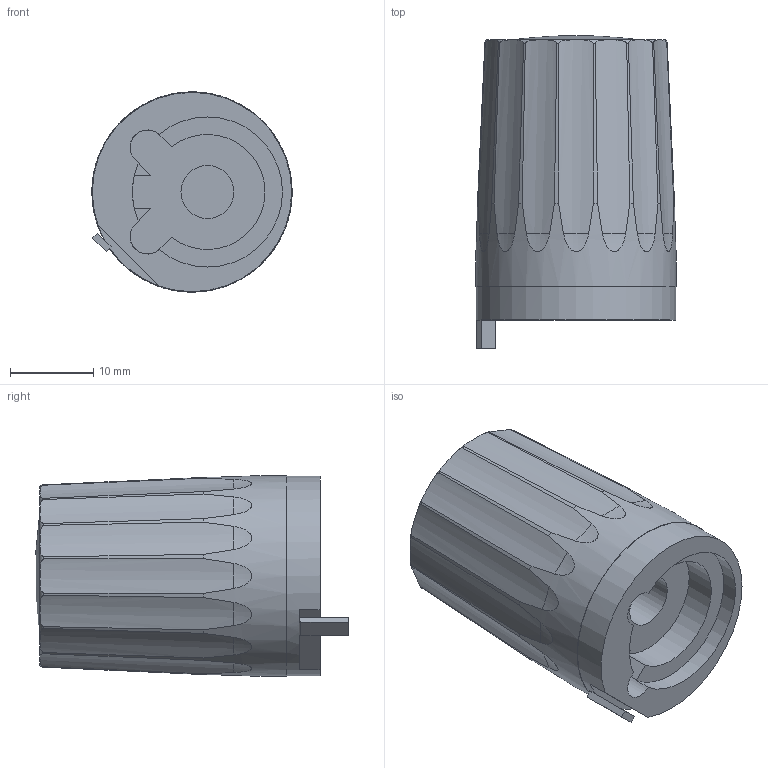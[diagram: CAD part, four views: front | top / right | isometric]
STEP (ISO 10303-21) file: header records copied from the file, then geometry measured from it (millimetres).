
FILE_DESCRIPTION (( 'STEP AP214' ), '1' );
FILE_NAME ('DAT.STEP', '2019-05-09T07:53:50', ( '' ), ( '' ), 'SwSTEP 2.0', 'SolidWorks 2017', '' );
FILE_SCHEMA (( 'AUTOMOTIVE_DESIGN' ));
Length unit declared in the file: millimetre
Products named in the file (1): DAT
Bounding box: 24 x 37.51 x 24 mm (x, y, z)
Volume: 12660.8 mm3; surface area: 4379.8 mm2
Topology: 2 solids, 2 shells, 139 faces, 370 edges, 246 vertices
Faces by surface type: plane 55, cylinder 27, bspline 23, torus 17, cone 16, sphere 1
Full cylindrical faces by diameter (mm): 6.35 x1, 15.5 x2, 23.9 x1, 24 x1
Entity records: 6476 total; most frequent: CARTESIAN_POINT 3007, ORIENTED_EDGE 722, DIRECTION 530, EDGE_CURVE 361, VERTEX_POINT 243, AXIS2_PLACEMENT_3D 194, EDGE_LOOP 156, FACE_OUTER_BOUND 145
